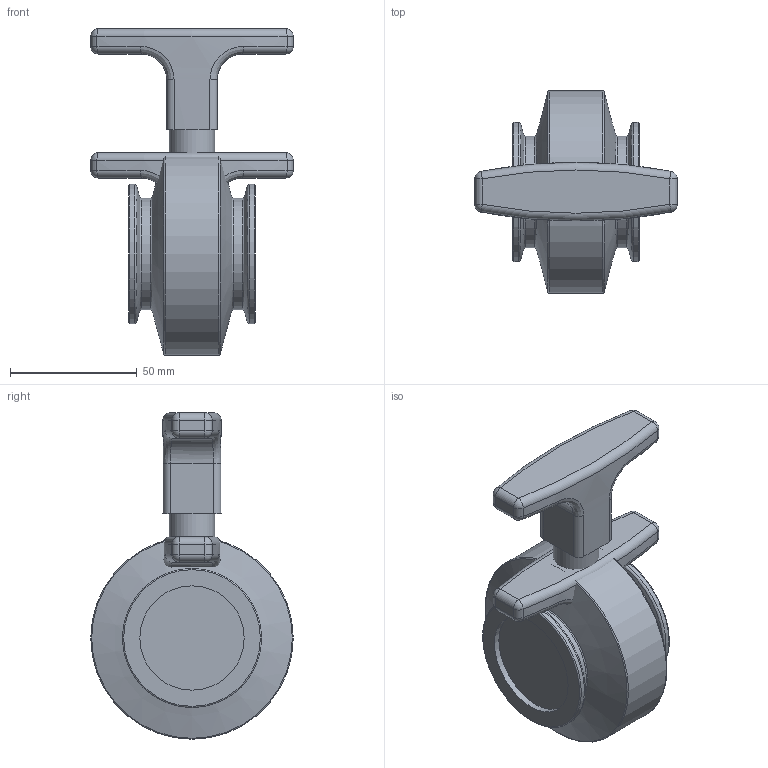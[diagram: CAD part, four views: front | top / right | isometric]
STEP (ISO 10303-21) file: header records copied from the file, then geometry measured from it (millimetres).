
FILE_DESCRIPTION( ( 'Unknown' ), '1' );
FILE_NAME( 'X:/Daten ( aktueller Bestand )/Projekte und Zeichnungen/Solid Edge/Schmetterl.ventile Kunde/4004.stp', 'Unknown', ( 'Unknown' ), ( 'Unknown' ), 'XStep 1.0', 'Unknown', ' ' );
FILE_SCHEMA( ( 'automotive_design' ) );
Length unit declared in the file: millimetre
Products named in the file (4): Assem1; NW 40; Bolzen NW40; Griff NW40
Bounding box: 80 x 80 x 129 mm (x, y, z)
Volume: 400813.5 mm3; surface area: 63185.4 mm2
Topology: 6 solids, 6 shells, 156 faces, 328 edges, 178 vertices
Faces by surface type: cylinder 56, plane 34, torus 32, sphere 16, cone 10, bspline 8
Full cylindrical faces by diameter (mm): 8.376 x4, 10 x2, 18 x4, 41.2 x4, 44 x4, 55 x4, 80 x2
Entity records: 2898 total; most frequent: CARTESIAN_POINT 1128, DIRECTION 352, ORIENTED_EDGE 244, AXIS2_PLACEMENT_3D 161, EDGE_CURVE 122, EDGE_LOOP 110, FACE_OUTER_BOUND 100, CIRCLE 83
